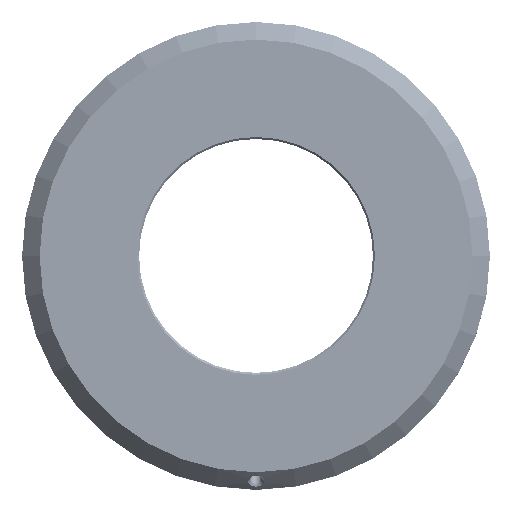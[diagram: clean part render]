
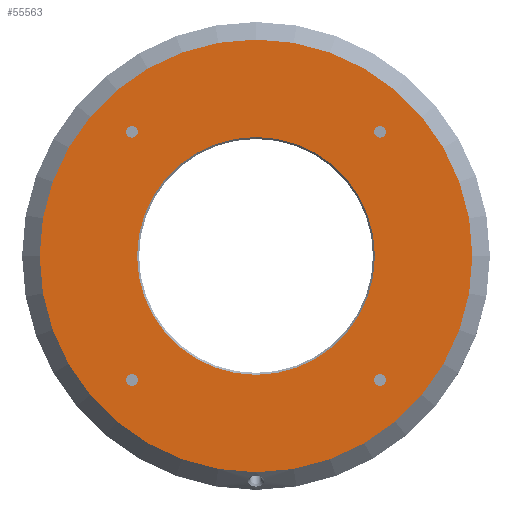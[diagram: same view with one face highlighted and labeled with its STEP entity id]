
A CAD part, top view. The second image highlights one B-rep face of the part: STEP entity #55563.
In plain terms, the highlighted planar face has unit normal (0, 0, 1).
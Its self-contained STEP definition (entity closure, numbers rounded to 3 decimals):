
#55360=CARTESIAN_POINT('',(31.82,-33.32,27.0));
#55361=VERTEX_POINT('',#55360);
#55362=CARTESIAN_POINT('',(31.82,-31.82,27.0));
#55363=DIRECTION('',(0.0,0.0,-1.0));
#55364=DIRECTION('',(0.0,1.0,0.0));
#55365=AXIS2_PLACEMENT_3D('',#55362,#55363,#55364);
#55366=CIRCLE('',#55365,1.5);
#55367=EDGE_CURVE('',#55361,#55361,#55366,.T.);
#55397=CARTESIAN_POINT('',(-33.32,-31.82,27.0));
#55398=VERTEX_POINT('',#55397);
#55399=CARTESIAN_POINT('',(-31.82,-31.82,27.0));
#55400=DIRECTION('',(0.0,0.0,-1.0));
#55401=DIRECTION('',(1.0,0.0,0.0));
#55402=AXIS2_PLACEMENT_3D('',#55399,#55400,#55401);
#55403=CIRCLE('',#55402,1.5);
#55404=EDGE_CURVE('',#55398,#55398,#55403,.T.);
#55434=CARTESIAN_POINT('',(-31.82,33.32,27.0));
#55435=VERTEX_POINT('',#55434);
#55436=CARTESIAN_POINT('',(-31.82,31.82,27.0));
#55437=DIRECTION('',(0.0,0.0,-1.0));
#55438=DIRECTION('',(0.0,-1.0,0.0));
#55439=AXIS2_PLACEMENT_3D('',#55436,#55437,#55438);
#55440=CIRCLE('',#55439,1.5);
#55441=EDGE_CURVE('',#55435,#55435,#55440,.T.);
#55471=CARTESIAN_POINT('',(33.32,31.82,27.0));
#55472=VERTEX_POINT('',#55471);
#55473=CARTESIAN_POINT('',(31.82,31.82,27.0));
#55474=DIRECTION('',(0.0,0.0,-1.0));
#55475=DIRECTION('',(-1.0,0.0,0.0));
#55476=AXIS2_PLACEMENT_3D('',#55473,#55474,#55475);
#55477=CIRCLE('',#55476,1.5);
#55478=EDGE_CURVE('',#55472,#55472,#55477,.T.);
#55508=CARTESIAN_POINT('',(30.5,0.,27.0));
#55509=VERTEX_POINT('',#55508);
#55510=CARTESIAN_POINT('',(0.0,0.,27.0));
#55511=DIRECTION('',(0.0,0.0,1.0));
#55512=DIRECTION('',(-1.0,0.0,0.0));
#55513=AXIS2_PLACEMENT_3D('',#55510,#55511,#55512);
#55514=CIRCLE('',#55513,30.5);
#55515=EDGE_CURVE('',#55509,#55509,#55514,.T.);
#55532=CARTESIAN_POINT('',(0.0,0.,27.0));
#55533=DIRECTION('',(0.0,0.0,-1.0));
#55534=DIRECTION('',(-1.0,0.0,0.0));
#55535=AXIS2_PLACEMENT_3D('',#55532,#55533,#55534);
#55536=PLANE('',#55535);
#55537=CARTESIAN_POINT('',(0.0,-55.5,27.0));
#55538=VERTEX_POINT('',#55537);
#55539=CARTESIAN_POINT('',(0.0,0.,27.0));
#55540=DIRECTION('',(0.0,0.0,1.0));
#55541=DIRECTION('',(0.0,-1.0,0.0));
#55542=AXIS2_PLACEMENT_3D('',#55539,#55540,#55541);
#55543=CIRCLE('',#55542,55.5);
#55544=EDGE_CURVE('',#55538,#55538,#55543,.T.);
#55545=ORIENTED_EDGE('',*,*,#55544,.T.);
#55546=EDGE_LOOP('',(#55545));
#55547=FACE_OUTER_BOUND('',#55546,.T.);
#55548=ORIENTED_EDGE('',*,*,#55367,.T.);
#55549=EDGE_LOOP('',(#55548));
#55550=FACE_BOUND('',#55549,.T.);
#55551=ORIENTED_EDGE('',*,*,#55404,.T.);
#55552=EDGE_LOOP('',(#55551));
#55553=FACE_BOUND('',#55552,.T.);
#55554=ORIENTED_EDGE('',*,*,#55441,.T.);
#55555=EDGE_LOOP('',(#55554));
#55556=FACE_BOUND('',#55555,.T.);
#55557=ORIENTED_EDGE('',*,*,#55478,.T.);
#55558=EDGE_LOOP('',(#55557));
#55559=FACE_BOUND('',#55558,.T.);
#55560=ORIENTED_EDGE('',*,*,#55515,.F.);
#55561=EDGE_LOOP('',(#55560));
#55562=FACE_BOUND('',#55561,.T.);
#55563=ADVANCED_FACE('',(#55547,#55550,#55553,#55556,#55559,#55562),#55536,.F.);
